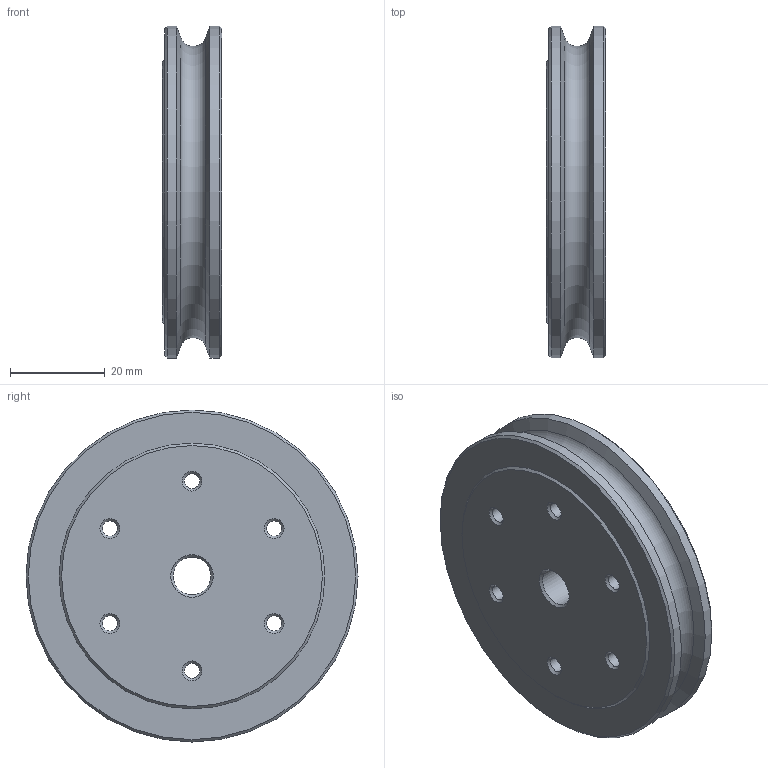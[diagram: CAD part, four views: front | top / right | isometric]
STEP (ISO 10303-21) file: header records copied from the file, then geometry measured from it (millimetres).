
FILE_DESCRIPTION(/* description */ (''),/* implementation_level */ '2;1');
FILE_NAME(/* name */ '\\192.168.3.8\kumagai\Develop\CAD\NakataOmni\DriveUnitR3\Wheel.stp',/* time_stamp */ '2024-05-24T15:12:50+09:00',/* author */ ('kumagai'),/* organization */ (''),/* preprocessor_version */ 'ST-DEVELOPER v19',/* originating_system */ 'Autodesk Inventor 2023',/* authorisation */ '');
FILE_SCHEMA (('AUTOMOTIVE_DESIGN { 1 0 10303 214 3 1 1 }'));
Length unit declared in the file: millimetre
Products named in the file (1): Wheel
Bounding box: 12.5 x 70 x 70 mm (x, y, z)
Volume: 41463.7 mm3; surface area: 11974.2 mm2
Topology: 1 solids, 1 shells, 32 faces, 79 edges, 50 vertices
Faces by surface type: cone 19, cylinder 9, plane 3, torus 1
Full cylindrical faces by diameter (mm): 3.2 x6, 7.95 x1, 70 x2
Entity records: 1041 total; most frequent: DIRECTION 196, CARTESIAN_POINT 162, ORIENTED_EDGE 158, AXIS2_PLACEMENT_3D 84, EDGE_CURVE 79, CIRCLE 51, VERTEX_POINT 50, EDGE_LOOP 47
